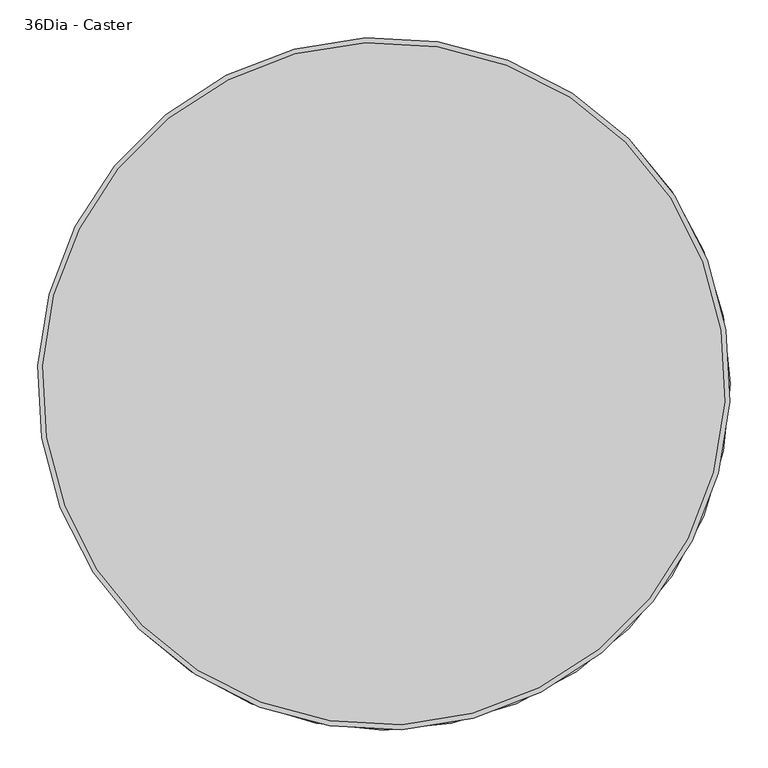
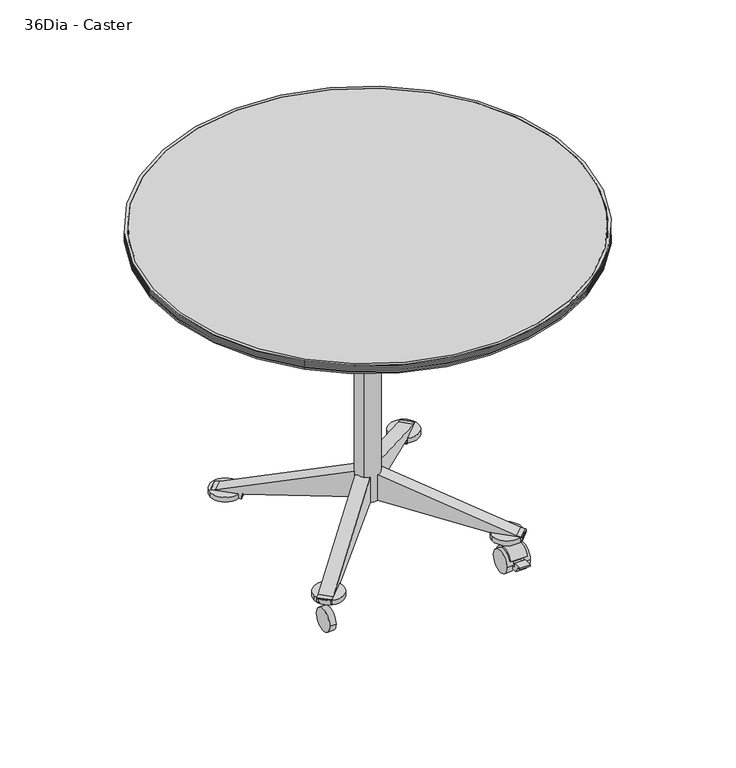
"""IFC4 building model written with IfcOpenShell, lengths in millimetres: furniture geometry, Coalesse_AM_Table_Conference_Ballet_Table_Round : 36Dia - Caster."""

from ifc_helpers import new_model, si_unit, point, frame, frame_2d, origin, origin_2d, place, context, project, spatial, polyline, circle_curve, trimmed, segment, composite_curve, outline, extrude, source, transform, mapped, element, save
from ifc_brep_helpers import plane_surface, cylinder_surface, revolved_surface, advanced_brep


def furniture_36dia_caster_071b1864(model_context):
    return source(origin(), model_context, "Body", "SolidModel", [
        extrude(outline(composite_curve([segment(trimmed(circle_curve(frame_2d((-208.7663144, 24.9907393)), 24.9398531), [point((-233.7061675, 24.9907393))], [point((-183.8264612, 24.9907393))], False, "CARTESIAN"), True, "CONTINUOUS"), segment(trimmed(circle_curve(frame_2d((-208.7663144, 24.9907393)), 24.9398531), [point((-183.8264612, 24.9907393))], [point((-233.7061675, 24.9907393))], False, "CARTESIAN"), True, "CONTINUOUS")], self_intersect=False)), frame((-217.0426362, 0.0, 0.0), z_axis=(1.0, 0.0, 0.0), x_axis=(0.0, 1.0, 0.0)), (0.0, 0.0, 1.0), 13.7103424),
        advanced_brep(
        [(210.1271218, -182.4395783, 14.7931869), (210.1271218, -182.4395783, 35.8956886), (210.1271218, -197.8152878, 51.3082762), (210.1271218, -234.6796249, 36.8601197), (210.1271218, -231.2540436, 35.7749086), (210.1271218, -185.3508649, 16.4051117), (174.0984431, -182.4395783, 14.7931869), (174.0984431, -185.3508649, 16.4051117), (174.0984431, -231.2540436, 35.7749086), (174.0984431, -234.6796249, 36.8601197), (174.0984431, -197.8152878, 51.3082762), (174.0984431, -182.4395783, 35.8956886), (201.6603984, -197.8152878, 51.3082762), (179.2633359, -197.8152878, 51.3082762), (179.2633359, -182.4395783, 35.8956886), (201.6603984, -182.4395783, 35.8956886), (179.2633359, -231.2540436, 35.7749086), (179.2633359, -219.8001714, 32.1463658), (201.6603984, -219.8001714, 32.1463658), (201.6603984, -231.2540436, 35.7749086), (201.6603984, -185.3508649, 16.4051117), (201.6603984, -195.904393, 22.2484025), (179.2633359, -195.904393, 22.2484025), (179.2633359, -185.3508649, 16.4051117), (201.6603984, -197.8152878, 63.5225277), (201.6603984, -182.4395783, 63.5225277), (201.6603984, -222.0637731, 25.0010719), (201.6603984, -241.3530844, 25.0010719), (201.6603984, -241.3530844, 35.1210973), (201.6603984, -260.4030844, 35.1210973), (201.6603984, -260.4030844, 31.7691038), (201.6603984, -253.6776476, 31.7691038), (201.6603984, -244.706152, 17.4117096), (201.6603984, -218.9375545, 17.4117096), (201.6603984, -198.9802659, 16.6930892), (179.2633359, -197.8152878, 63.5225277), (179.2633359, -182.4395783, 63.5225277), (179.2633359, -198.9802659, 16.6930892), (179.2633359, -218.9375545, 17.4117096), (179.2633359, -244.706152, 17.4117096), (179.2633359, -253.6776476, 31.7691038), (179.2633359, -260.4030844, 31.7691038), (179.2633359, -260.4030844, 35.1210973), (179.2633359, -241.3530844, 35.1210973), (179.2633359, -241.3530844, 25.0010719), (179.2633359, -222.0637731, 25.0010719)],
        [
            (0, 1, circle_curve(frame((210.1271218, -209.2741105, 25.3444377), z_axis=(1.0, 0.0, 0.0), x_axis=(0.0, 1.0, 0.0)), 28.8343721)),
            (1, 2, circle_curve(frame((210.1271218, -207.8788336, 25.8930561), z_axis=(1.0, 0.0, 0.0), x_axis=(0.0, 1.0, 0.0)), 27.3351124)),
            (2, 3, circle_curve(frame((210.1271218, -209.4353674, 26.7032164), z_axis=(1.0, 0.0, 0.0), x_axis=(0.0, 1.0, 0.0)), 27.2109394)),
            (3, 4),
            (4, 5, circle_curve(frame((210.1271218, -208.7663144, 24.9907393), z_axis=(-1.0, 0.0, 0.0), x_axis=(0.0, 1.0, 0.0)), 24.9398531)),
            (5, 0),
            (6, 7),
            (7, 8, circle_curve(frame((174.0984431, -208.7663144, 24.9907393), z_axis=(1.0, 0.0, 0.0), x_axis=(0.0, 1.0, 0.0)), 24.9398531)),
            (8, 9),
            (9, 10, circle_curve(frame((174.0984431, -209.4353674, 26.7032164), z_axis=(-1.0, 0.0, 0.0), x_axis=(0.0, 1.0, 0.0)), 27.2109394)),
            (10, 11, circle_curve(frame((174.0984431, -207.8788336, 25.8930561), z_axis=(-1.0, 0.0, 0.0), x_axis=(0.0, 1.0, 0.0)), 27.3351124)),
            (11, 6, circle_curve(frame((174.0984431, -209.2741105, 25.3444377), z_axis=(-1.0, 0.0, 0.0), x_axis=(0.0, 1.0, 0.0)), 28.8343721)),
            (9, 3),
            (2, 12),
            (12, 13),
            (13, 10),
            (0, 6),
            (11, 14),
            (14, 15),
            (15, 1),
            (8, 16),
            (16, 17),
            (17, 18),
            (18, 19),
            (19, 4),
            (5, 20),
            (20, 21),
            (21, 22),
            (22, 23),
            (23, 7),
            (15, 12, circle_curve(frame((201.6603984, -207.8788336, 25.8930561), z_axis=(1.0, 0.0, 0.0), x_axis=(0.0, 1.0, 0.0)), 27.3351124)),
            (13, 14, circle_curve(frame((179.2633359, -207.8788336, 25.8930561), z_axis=(-1.0, 0.0, 0.0), x_axis=(0.0, 1.0, 0.0)), 27.3351124)),
            (19, 20, circle_curve(frame((201.6603984, -208.7663144, 24.9907393), z_axis=(-1.0, 0.0, 0.0), x_axis=(0.0, 1.0, 0.0)), 24.9398531)),
            (23, 16, circle_curve(frame((179.2633359, -208.7663144, 24.9907393), z_axis=(1.0, 0.0, 0.0), x_axis=(0.0, 1.0, 0.0)), 24.9398531)),
            (24, 12),
            (15, 25),
            (25, 24),
            (18, 26),
            (26, 27),
            (27, 28),
            (28, 29),
            (29, 30),
            (30, 31),
            (31, 32),
            (32, 33),
            (33, 34, circle_curve(frame((201.6603984, -208.672695, 25.0010719), z_axis=(1.0, 0.0, 0.0), x_axis=(0.0, 1.0, 0.0)), 12.7658043)),
            (34, 21),
            (35, 36),
            (36, 14),
            (13, 35),
            (22, 37),
            (37, 38, circle_curve(frame((179.2633359, -208.672695, 25.0010719), z_axis=(-1.0, 0.0, 0.0), x_axis=(0.0, 1.0, 0.0)), 12.7658043)),
            (38, 39),
            (39, 40),
            (40, 41),
            (41, 42),
            (42, 43),
            (43, 44),
            (44, 45),
            (45, 17),
            (24, 35),
            (36, 25),
            (45, 26),
            (33, 38),
            (37, 34),
            (44, 27),
            (43, 28),
            (42, 29),
            (41, 30),
            (40, 31),
            (39, 32),
        ],
        [
            plane_surface(frame((210.1271218, -180.4397384, 25.3444377), z_axis=(1.0, 0.0, 0.0), x_axis=(0.0, 0.0, 1.0))),
            plane_surface(frame((174.0984431, -180.4397384, 25.3444377), z_axis=(-1.0, 0.0, 0.0), x_axis=(0.0, 0.0, -1.0))),
            cylinder_surface(frame((174.0984431, -209.4353674, 26.7032164), z_axis=(1.0, 0.0, 0.0), x_axis=(0.0, 1.0, 0.0)), 27.2109394),
            cylinder_surface(frame((174.0984431, -209.2741105, 25.3444377), z_axis=(1.0, 0.0, 0.0), x_axis=(0.0, 1.0, 0.0)), 28.8343721),
            plane_surface(frame((210.1271218, -234.6796249, 36.8601197), z_axis=(0.0, -0.30200390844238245, -0.9533066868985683), x_axis=(-1.0, 0.0, 0.0))),
            plane_surface(frame((210.1271218, -185.3508649, 16.4051117), z_axis=(0.0, -0.4843894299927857, -0.8748524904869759), x_axis=(-1.0, 0.0, 0.0))),
            cylinder_surface(frame((174.0984431, -207.8788336, 25.8930561), z_axis=(1.0, 0.0, 0.0), x_axis=(0.0, 1.0, 0.0)), 27.3351124),
            revolved_surface(polyline([(201.6603984, -183.8264613, 24.9907393), (210.1271218, -183.8264613, 24.9907393)]), (174.0984431, -208.7663144, 24.9907393), (-1.0, 0.0, 0.0)),
            revolved_surface(polyline([(174.0984431, -183.8264613, 24.9907393), (179.2633359, -183.8264613, 24.9907393)]), (174.0984431, -208.7663144, 24.9907393), (-1.0, 0.0, 0.0)),
            plane_surface(frame((201.6603984, -197.8152878, 63.5225277), z_axis=(1.0, 0.0, 0.0), x_axis=(0.0, 0.0, -1.0))),
            plane_surface(frame((179.2633359, -197.8152878, 63.5225277), z_axis=(-1.0, 0.0, 0.0), x_axis=(0.0, 0.0, 1.0))),
            plane_surface(frame((201.6603984, -197.8152878, 63.5225277), z_axis=(0.0, -1.0, 0.0), x_axis=(-1.0, 0.0, 0.0))),
            plane_surface(frame((201.6603984, -182.4395783, 35.8956886), z_axis=(0.0, 1.0, 0.0), x_axis=(-1.0, 0.0, 0.0))),
            plane_surface(frame((201.6603984, -182.4395783, 63.5225277), z_axis=(0.0, 0.0, 1.0), x_axis=(-1.0, 0.0, 0.0))),
            plane_surface(frame((201.6603984, -219.8001714, 32.1463658), z_axis=(0.0, -0.9533066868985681, 0.3020039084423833), x_axis=(-1.0, 0.0, 0.0))),
            cylinder_surface(frame((179.2633359, -208.672695, 25.0010719), z_axis=(1.0, 0.0, 0.0), x_axis=(0.0, 1.0, 0.0)), 12.7658043),
            plane_surface(frame((201.6603984, -198.9802659, 16.6930892), z_axis=(0.0, 0.8748524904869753, -0.48438942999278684), x_axis=(-1.0, 0.0, 0.0))),
            plane_surface(frame((201.6603984, -222.0637731, 25.0010719), z_axis=(0.0, 0.0, 1.0), x_axis=(-1.0, 0.0, 0.0))),
            plane_surface(frame((201.6603984, -241.3530844, 25.0010719), z_axis=(0.0, 1.0, 0.0), x_axis=(-1.0, 0.0, 0.0))),
            plane_surface(frame((201.6603984, -241.3530844, 35.1210973), z_axis=(0.0, 0.0, 1.0), x_axis=(-1.0, 0.0, 0.0))),
            plane_surface(frame((201.6603984, -260.4030844, 35.1210973), z_axis=(0.0, -1.0, 0.0), x_axis=(-1.0, 0.0, 0.0))),
            plane_surface(frame((201.6603984, -260.4030844, 31.7691038), z_axis=(0.0, 0.0, -1.0), x_axis=(-1.0, 0.0, 0.0))),
            plane_surface(frame((201.6603984, -253.6776476, 31.7691038), z_axis=(0.0, -0.8480480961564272, -0.529919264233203), x_axis=(-1.0, 0.0, 0.0))),
            plane_surface(frame((201.6603984, -244.706152, 17.4117096), z_axis=(0.0, 0.0, -1.0), x_axis=(-1.0, 0.0, 0.0))),
        ],
        [
            (0, [[1, 2, 3, 4, 5, 6]]),
            (1, [[7, 8, 9, 10, 11, 12]]),
            (2, [[13, -3, 14, 15, 16, -10]]),
            (3, [[-1, 17, -12, 18, 19, 20]]),
            (4, [[-4, -13, -9, 21, 22, 23, 24, 25]]),
            (5, [[-6, 26, 27, 28, 29, 30, -7, -17]]),
            (6, [[-2, -20, 31, -14]]),
            (6, [[-11, -16, 32, -18]]),
            (7, [[-5, -25, 33, -26]]),
            (8, [[-8, -30, 34, -21]]),
            (9, [[35, -31, 36, 37]]),
            (9, [[38, 39, 40, 41, 42, 43, 44, 45, 46, 47, -27, -33, -24]]),
            (10, [[48, 49, -32, 50]]),
            (10, [[51, 52, 53, 54, 55, 56, 57, 58, 59, 60, -22, -34, -29]]),
            (11, [[-35, 61, -50, -15]]),
            (12, [[-36, -19, -49, 62]]),
            (13, [[-37, -62, -48, -61]]),
            (14, [[-38, -23, -60, 63]]),
            (15, [[-46, 64, -52, 65]]),
            (16, [[-47, -65, -51, -28]]),
            (17, [[-39, -63, -59, 66]]),
            (18, [[-40, -66, -58, 67]]),
            (19, [[-41, -67, -57, 68]]),
            (20, [[-42, -68, -56, 69]]),
            (21, [[-43, -69, -55, 70]]),
            (22, [[-44, -70, -54, 71]]),
            (23, [[-45, -71, -53, -64]]),
        ],
    ),
        extrude(outline(composite_curve([segment(trimmed(circle_curve(frame_2d((-208.7663144, 24.9907393)), 24.9398531), [point((-233.7061675, 24.9907393))], [point((-183.8264612, 24.9907393))], False, "CARTESIAN"), True, "CONTINUOUS"), segment(trimmed(circle_curve(frame_2d((-208.7663144, 24.9907393)), 24.9398531), [point((-183.8264612, 24.9907393))], [point((-233.7061675, 24.9907393))], False, "CARTESIAN"), True, "CONTINUOUS")], self_intersect=False)), frame((166.2968952, 0.0, 0.0), z_axis=(1.0, 0.0, 0.0), x_axis=(0.0, 1.0, 0.0)), (0.0, 0.0, 1.0), 14.6120158),
        extrude(outline(composite_curve([segment(trimmed(circle_curve(frame_2d((-208.7663144, 24.9907393)), 24.9398531), [point((-233.7061675, 24.9907393))], [point((-183.8264612, 24.9907393))], False, "CARTESIAN"), True, "CONTINUOUS"), segment(trimmed(circle_curve(frame_2d((-208.7663144, 24.9907393)), 24.9398531), [point((-183.8264612, 24.9907393))], [point((-233.7061675, 24.9907393))], False, "CARTESIAN"), True, "CONTINUOUS")], self_intersect=False)), frame((203.3322938, 0.0, 0.0), z_axis=(1.0, 0.0, 0.0), x_axis=(0.0, 1.0, 0.0)), (0.0, 0.0, 1.0), 13.7103424),
        extrude(outline(composite_curve([segment(trimmed(circle_curve(frame_2d((-194.715793, 197.3207687)), 31.75), [point((-226.465793, 197.3207687))], [point((-162.965793, 197.3207687))], False, "CARTESIAN"), True, "CONTINUOUS"), segment(trimmed(circle_curve(frame_2d((-194.715793, 197.3207687)), 31.75), [point((-162.965793, 197.3207687))], [point((-226.465793, 197.3207687))], False, "CARTESIAN"), True, "CONTINUOUS")], self_intersect=False)), frame((0.0, 0.0, 62.0397209), z_axis=(0.0, 0.0, 1.0), x_axis=(1.0, 0.0, 0.0)), (0.0, 0.0, 1.0), 10.7840801),
        extrude(outline(composite_curve([segment(trimmed(circle_curve(frame_2d((191.7194605, 196.5270187)), 31.75), [point((159.9694605, 196.5270187))], [point((223.4694605, 196.5270187))], False, "CARTESIAN"), True, "CONTINUOUS"), segment(trimmed(circle_curve(frame_2d((191.7194605, 196.5270187)), 31.75), [point((223.4694605, 196.5270187))], [point((159.9694605, 196.5270187))], False, "CARTESIAN"), True, "CONTINUOUS")], self_intersect=False)), frame((0.0, 0.0, 62.0397209), z_axis=(0.0, 0.0, 1.0), x_axis=(1.0, 0.0, 0.0)), (0.0, 0.0, 1.0), 10.7840801),
        extrude(outline(composite_curve([segment(trimmed(circle_curve(frame_2d((-194.715793, -191.2787692)), 31.75), [point((-226.465793, -191.2787692))], [point((-162.965793, -191.2787692))], False, "CARTESIAN"), True, "CONTINUOUS"), segment(trimmed(circle_curve(frame_2d((-194.715793, -191.2787692)), 31.75), [point((-162.965793, -191.2787692))], [point((-226.465793, -191.2787692))], False, "CARTESIAN"), True, "CONTINUOUS")], self_intersect=False)), frame((0.0, 0.0, 62.0397209), z_axis=(0.0, 0.0, 1.0), x_axis=(1.0, 0.0, 0.0)), (0.0, 0.0, 1.0), 10.7840801),
        extrude(outline(composite_curve([segment(trimmed(circle_curve(frame_2d((191.7194605, -190.4850192)), 31.75), [point((159.9694605, -190.4850192))], [point((223.4694605, -190.4850192))], False, "CARTESIAN"), True, "CONTINUOUS"), segment(trimmed(circle_curve(frame_2d((191.7194605, -190.4850192)), 31.75), [point((223.4694605, -190.4850192))], [point((159.9694605, -190.4850192))], False, "CARTESIAN"), True, "CONTINUOUS")], self_intersect=False)), frame((0.0, 0.0, 62.0397209), z_axis=(0.0, 0.0, 1.0), x_axis=(1.0, 0.0, 0.0)), (0.0, 0.0, 1.0), 10.7840801),
        extrude(outline(composite_curve([segment(polyline([(-57.749273, 0.0), (0.0, 0.0), (-90.9931074, -269.8641919), (-92.3030079, -279.1846177)]), True, "CONTINUOUS"), segment(trimmed(circle_curve(frame_2d((-93.9206951, -278.9572666)), 1.6335852), [point((-92.3030079, -279.1846177))], [point((-93.8206014, -280.5877823))], False, "CARTESIAN"), True, "CONTINUOUS"), segment(trimmed(circle_curve(frame_2d((-95.8523928, -247.4901147)), 33.1599725), [point((-93.8206014, -280.5877823))], [point((-101.682402, -280.1335639))], False, "CARTESIAN"), True, "CONTINUOUS"), segment(trimmed(circle_curve(frame_2d((-101.2796868, -277.8786768)), 2.2905666), [point((-101.682402, -280.1335639))], [point((-103.5674671, -277.7657306))], False, "CARTESIAN"), True, "CONTINUOUS"), segment(polyline([(-103.5674671, -277.7657306), (-103.5674671, -222.4322812)]), True, "CONTINUOUS"), segment(trimmed(circle_curve(frame_2d((-100.6154331, -221.9840334)), 2.9858719), [point((-103.5674671, -222.4322812))], [point((-100.2998684, -219.0148838))], False, "CARTESIAN"), True, "CONTINUOUS"), segment(trimmed(circle_curve(frame_2d((-98.3053249, -200.2482144)), 18.872363), [point((-100.2998684, -219.0148838))], [point((-94.5016021, -218.7332835))], True, "CARTESIAN"), True, "CONTINUOUS"), segment(trimmed(circle_curve(frame_2d((-95.1495986, -215.5841949)), 3.2150673), [point((-94.5016021, -218.7332835))], [point((-91.9741141, -216.0871422))], True, "CARTESIAN"), True, "CONTINUOUS"), segment(polyline([(-91.9741141, -216.0871422), (-57.749273, 0.0)]), True, "CONTINUOUS")], self_intersect=False)), frame((-23.5273141, 7.7834997, 165.607188), z_axis=(0.7071067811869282, 0.707106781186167, 0.0), x_axis=(0.0, 0.0, 1.0)), (0.0, 0.0, 1.0), 29.2174476),
        extrude(outline(composite_curve([segment(polyline([(-57.749273, 44.2801775), (-91.9741141, 260.3673198)]), True, "CONTINUOUS"), segment(trimmed(circle_curve(frame_2d((-95.1495986, 259.8643724)), 3.2150673), [point((-91.9741141, 260.3673198))], [point((-94.5016021, 263.013461))], True, "CARTESIAN"), True, "CONTINUOUS"), segment(trimmed(circle_curve(frame_2d((-98.3053249, 244.5283919)), 18.872363), [point((-94.5016021, 263.013461))], [point((-100.2998684, 263.2950613))], True, "CARTESIAN"), True, "CONTINUOUS"), segment(trimmed(circle_curve(frame_2d((-100.6154331, 266.2642109)), 2.9858719), [point((-100.2998684, 263.2950613))], [point((-103.5674671, 266.7124587))], False, "CARTESIAN"), True, "CONTINUOUS"), segment(polyline([(-103.5674671, 266.7124587), (-103.5674671, 322.0459081)]), True, "CONTINUOUS"), segment(trimmed(circle_curve(frame_2d((-101.2796868, 322.1588543)), 2.2905666), [point((-103.5674671, 322.0459081))], [point((-101.682402, 324.4137415))], False, "CARTESIAN"), True, "CONTINUOUS"), segment(trimmed(circle_curve(frame_2d((-95.8523928, 291.7702923)), 33.1599725), [point((-101.682402, 324.4137415))], [point((-93.8206014, 324.8679598))], False, "CARTESIAN"), True, "CONTINUOUS"), segment(trimmed(circle_curve(frame_2d((-93.9206951, 323.2374442)), 1.6335852), [point((-93.8206014, 324.8679598))], [point((-92.3030079, 323.4647953))], False, "CARTESIAN"), True, "CONTINUOUS"), segment(polyline([(-92.3030079, 323.4647953), (-90.9931074, 314.1443694), (0.0, 44.2801775), (-57.749273, 44.2801775)]), True, "CONTINUOUS")], self_intersect=False)), frame((-23.5273141, 7.7834997, 165.607188), z_axis=(0.7071067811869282, 0.707106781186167, 0.0), x_axis=(0.0, 0.0, 1.0)), (0.0, 0.0, 1.0), 29.2174476),
        extrude(outline(composite_curve([segment(polyline([(-57.749273, 0.0), (0.0, 0.0), (-90.9931074, -269.8641919), (-92.3030079, -279.1846177)]), True, "CONTINUOUS"), segment(trimmed(circle_curve(frame_2d((-93.9206951, -278.9572666)), 1.6335852), [point((-92.3030079, -279.1846177))], [point((-93.8206014, -280.5877823))], False, "CARTESIAN"), True, "CONTINUOUS"), segment(trimmed(circle_curve(frame_2d((-95.8523928, -247.4901147)), 33.1599725), [point((-93.8206014, -280.5877823))], [point((-101.682402, -280.1335639))], False, "CARTESIAN"), True, "CONTINUOUS"), segment(trimmed(circle_curve(frame_2d((-101.2796868, -277.8786768)), 2.2905666), [point((-101.682402, -280.1335639))], [point((-103.5674671, -277.7657306))], False, "CARTESIAN"), True, "CONTINUOUS"), segment(polyline([(-103.5674671, -277.7657306), (-103.5674671, -222.4322812)]), True, "CONTINUOUS"), segment(trimmed(circle_curve(frame_2d((-100.6154331, -221.9840334)), 2.9858719), [point((-103.5674671, -222.4322812))], [point((-100.2998684, -219.0148838))], False, "CARTESIAN"), True, "CONTINUOUS"), segment(trimmed(circle_curve(frame_2d((-98.3053249, -200.2482144)), 18.872363), [point((-100.2998684, -219.0148838))], [point((-94.5016021, -218.7332835))], True, "CARTESIAN"), True, "CONTINUOUS"), segment(trimmed(circle_curve(frame_2d((-95.1495986, -215.5841949)), 3.2150673), [point((-94.5016021, -218.7332835))], [point((-91.9741141, -216.0871422))], True, "CARTESIAN"), True, "CONTINUOUS"), segment(polyline([(-91.9741141, -216.0871422), (-57.749273, 0.0)]), True, "CONTINUOUS")], self_intersect=False)), frame((-7.7834997, -23.5273141, 165.607188), z_axis=(-0.7071067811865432, 0.7071067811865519, 0.0), x_axis=(0.0, 0.0, 1.0)), (0.0, 0.0, 1.0), 29.2174476),
        extrude(outline(composite_curve([segment(polyline([(-57.749273, 44.2801775), (-91.9741141, 260.3673198)]), True, "CONTINUOUS"), segment(trimmed(circle_curve(frame_2d((-95.1495986, 259.8643724)), 3.2150673), [point((-91.9741141, 260.3673198))], [point((-94.5016021, 263.013461))], True, "CARTESIAN"), True, "CONTINUOUS"), segment(trimmed(circle_curve(frame_2d((-98.3053249, 244.5283919)), 18.872363), [point((-94.5016021, 263.013461))], [point((-100.2998684, 263.2950613))], True, "CARTESIAN"), True, "CONTINUOUS"), segment(trimmed(circle_curve(frame_2d((-100.6154331, 266.2642109)), 2.9858719), [point((-100.2998684, 263.2950613))], [point((-103.5674671, 266.7124587))], False, "CARTESIAN"), True, "CONTINUOUS"), segment(polyline([(-103.5674671, 266.7124587), (-103.5674671, 322.0459081)]), True, "CONTINUOUS"), segment(trimmed(circle_curve(frame_2d((-101.2796868, 322.1588543)), 2.2905666), [point((-103.5674671, 322.0459081))], [point((-101.682402, 324.4137415))], False, "CARTESIAN"), True, "CONTINUOUS"), segment(trimmed(circle_curve(frame_2d((-95.8523928, 291.7702923)), 33.1599725), [point((-101.682402, 324.4137415))], [point((-93.8206014, 324.8679598))], False, "CARTESIAN"), True, "CONTINUOUS"), segment(trimmed(circle_curve(frame_2d((-93.9206951, 323.2374442)), 1.6335852), [point((-93.8206014, 324.8679598))], [point((-92.3030079, 323.4647953))], False, "CARTESIAN"), True, "CONTINUOUS"), segment(polyline([(-92.3030079, 323.4647953), (-90.9931074, 314.1443694), (0.0, 44.2801775), (-57.749273, 44.2801775)]), True, "CONTINUOUS")], self_intersect=False)), frame((-7.7834997, -23.5273141, 165.607188), z_axis=(-0.7071067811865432, 0.7071067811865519, 0.0), x_axis=(0.0, 0.0, 1.0)), (0.0, 0.0, 1.0), 29.2174476),
        extrude(outline(composite_curve([segment(trimmed(circle_curve(frame_2d((1.04e-05, -1.04e-05)), 25.3999999), [point((-17.9605018, -17.9605225))], [point((17.9605225, 17.9605018))], False, "CARTESIAN"), True, "CONTINUOUS"), segment(trimmed(circle_curve(frame_2d((1.04e-05, -1.04e-05)), 25.3999999), [point((17.9605225, 17.9605018))], [point((-17.9605018, -17.9605225))], False, "CARTESIAN"), True, "CONTINUOUS")], self_intersect=False)), frame((0.0, 0.0, 107.857915), z_axis=(0.0, 0.0, 1.0), x_axis=(1.0, 0.0, 0.0)), (0.0, 0.0, 1.0), 499.8204968),
        advanced_brep(
        [(-318.7990923, -318.7990923, 723.9), (318.7990923, 318.7990923, 723.9), (318.7990923, 318.7990923, 704.85), (-318.7990923, -318.7990923, 704.85), (-323.4194013, -323.4194013, 720.7467693), (323.4194013, 323.4194013, 720.7467693), (323.4194013, 323.4194013, 723.9), (-323.4194013, -323.4194013, 723.9), (-321.1902454, -321.1902454, 719.140489), (321.1902454, 321.1902454, 719.140489), (-323.3975457, -323.3975457, 717.5499574), (323.3975457, 323.3975457, 717.5499574), (-321.1872768, -321.1872768, 715.9572867), (321.1872768, 321.1872768, 715.9572867), (-323.4153307, -323.4153307, 714.3518005), (323.4153307, 323.4153307, 714.3518005), (-321.1853731, -321.1853731, 712.8136693), (321.1853731, 321.1853731, 712.8136693), (-323.4314025, -323.4314025, 711.2246637), (323.4314025, 323.4314025, 711.2246637), (-321.1899902, -321.1899902, 709.6095518), (321.1899902, 321.1899902, 709.6095518), (-323.4314025, -323.4314025, 708.0238127), (323.4314025, 323.4314025, 708.0238127), (-323.4314025, -323.4314025, 704.85), (323.4314025, 323.4314025, 704.85)],
        [
            (0, 1, circle_curve(frame((0.0, 0.0, 723.9), z_axis=(0.0, 0.0, 1.0), x_axis=(0.707106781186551, 0.707106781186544, 0.0)), 450.85)),
            (1, 2),
            (2, 3, circle_curve(frame((0.0, 0.0, 704.85), z_axis=(0.0, 0.0, -1.0), x_axis=(0.707106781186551, 0.707106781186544, 0.0)), 450.85)),
            (3, 0),
            (4, 5, circle_curve(frame((0.0, 0.0, 720.7467693), z_axis=(0.0, 0.0, 1.0), x_axis=(0.707106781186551, 0.707106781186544, 0.0)), 457.3841036)),
            (5, 6),
            (6, 7, circle_curve(frame((0.0, 0.0, 723.9), z_axis=(0.0, 0.0, -1.0), x_axis=(0.707106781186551, 0.707106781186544, 0.0)), 457.3841036)),
            (7, 4),
            (8, 9, circle_curve(frame((0.0, 0.0, 719.140489), z_axis=(0.0, 0.0, 1.0), x_axis=(0.707106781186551, 0.707106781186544, 0.0)), 454.2316012)),
            (9, 5),
            (4, 8),
            (10, 11, circle_curve(frame((0.0, 0.0, 717.5499574), z_axis=(0.0, 0.0, 1.0), x_axis=(0.707106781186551, 0.707106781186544, 0.0)), 457.3531952)),
            (11, 9),
            (8, 10),
            (12, 13, circle_curve(frame((0.0, 0.0, 715.9572867), z_axis=(0.0, 0.0, 1.0), x_axis=(0.707106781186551, 0.707106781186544, 0.0)), 454.2274029)),
            (13, 11),
            (10, 12),
            (14, 15, circle_curve(frame((0.0, 0.0, 714.3518005), z_axis=(0.0, 0.0, 1.0), x_axis=(0.707106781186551, 0.707106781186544, 0.0)), 457.378347)),
            (15, 13),
            (12, 14),
            (16, 17, circle_curve(frame((0.0, 0.0, 712.8136693), z_axis=(0.0, 0.0, 1.0), x_axis=(0.707106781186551, 0.707106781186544, 0.0)), 454.2247106)),
            (17, 15),
            (14, 16),
            (18, 19, circle_curve(frame((0.0, 0.0, 711.2246637), z_axis=(0.0, 0.0, 1.0), x_axis=(0.707106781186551, 0.707106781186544, 0.0)), 457.4010759)),
            (19, 17),
            (16, 18),
            (20, 21, circle_curve(frame((0.0, 0.0, 709.6095518), z_axis=(0.0, 0.0, 1.0), x_axis=(0.707106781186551, 0.707106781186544, 0.0)), 454.2312403)),
            (21, 19),
            (18, 20),
            (22, 23, circle_curve(frame((0.0, 0.0, 708.0238127), z_axis=(0.0, 0.0, 1.0), x_axis=(0.707106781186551, 0.707106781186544, 0.0)), 457.4010759)),
            (23, 21),
            (20, 22),
            (24, 25, circle_curve(frame((0.0, 0.0, 704.85), z_axis=(0.0, 0.0, 1.0), x_axis=(0.707106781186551, 0.707106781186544, 0.0)), 457.4010759)),
            (25, 23),
            (22, 24),
            (1, 0, circle_curve(frame((0.0, 0.0, 723.9), z_axis=(0.0, 0.0, 1.0), x_axis=(-0.7071067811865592, -0.7071067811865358, 0.0)), 450.85)),
            (3, 2, circle_curve(frame((0.0, 0.0, 704.85), z_axis=(0.0, 0.0, -1.0), x_axis=(-0.7071067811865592, -0.7071067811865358, 0.0)), 450.85)),
            (6, 7, circle_curve(frame((0.0, 0.0, 723.9), z_axis=(0.0, 0.0, 1.0), x_axis=(-0.7071067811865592, -0.7071067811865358, 0.0)), 457.3841036)),
            (5, 4, circle_curve(frame((0.0, 0.0, 720.7467693), z_axis=(0.0, 0.0, 1.0), x_axis=(-0.7071067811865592, -0.7071067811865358, 0.0)), 457.3841036)),
            (9, 8, circle_curve(frame((0.0, 0.0, 719.140489), z_axis=(0.0, 0.0, 1.0), x_axis=(-0.7071067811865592, -0.7071067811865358, 0.0)), 454.2316012)),
            (11, 10, circle_curve(frame((0.0, 0.0, 717.5499574), z_axis=(0.0, 0.0, 1.0), x_axis=(-0.7071067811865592, -0.7071067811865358, 0.0)), 457.3531952)),
            (13, 12, circle_curve(frame((0.0, 0.0, 715.9572867), z_axis=(0.0, 0.0, 1.0), x_axis=(-0.7071067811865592, -0.7071067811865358, 0.0)), 454.2274029)),
            (15, 14, circle_curve(frame((0.0, 0.0, 714.3518005), z_axis=(0.0, 0.0, 1.0), x_axis=(-0.7071067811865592, -0.7071067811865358, 0.0)), 457.378347)),
            (17, 16, circle_curve(frame((0.0, 0.0, 712.8136693), z_axis=(0.0, 0.0, 1.0), x_axis=(-0.7071067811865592, -0.7071067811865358, 0.0)), 454.2247106)),
            (19, 18, circle_curve(frame((0.0, 0.0, 711.2246637), z_axis=(0.0, 0.0, 1.0), x_axis=(-0.7071067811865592, -0.7071067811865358, 0.0)), 457.4010759)),
            (21, 20, circle_curve(frame((0.0, 0.0, 709.6095518), z_axis=(0.0, 0.0, 1.0), x_axis=(-0.7071067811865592, -0.7071067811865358, 0.0)), 454.2312403)),
            (23, 22, circle_curve(frame((0.0, 0.0, 708.0238127), z_axis=(0.0, 0.0, 1.0), x_axis=(-0.7071067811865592, -0.7071067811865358, 0.0)), 457.4010759)),
            (25, 24, circle_curve(frame((0.0, 0.0, 704.85), z_axis=(0.0, 0.0, 1.0), x_axis=(-0.7071067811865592, -0.7071067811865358, 0.0)), 457.4010759)),
        ],
        [
            revolved_surface(polyline([(318.7990922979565, 318.7990922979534, 704.85), (318.7990922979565, 318.7990922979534, 723.9)]), (0.0, 0.0, 723.9), (0.0, 0.0, -1.0)),
            cylinder_surface(frame((0.0, 0.0, 723.9), z_axis=(0.0, 0.0, -1.0), x_axis=(0.707106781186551, 0.707106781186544, 0.0)), 457.3841036),
            revolved_surface(polyline([(323.4194013, 323.4194013, 720.7467693), (321.1902454, 321.1902454, 719.140489)]), (0.0, 0.0, 723.9), (0.0, 0.0, -1.0)),
            revolved_surface(polyline([(321.1902454, 321.1902454, 719.140489), (323.3975457, 323.3975457, 717.5499574)]), (0.0, 0.0, 723.9), (0.0, 0.0, -1.0)),
            revolved_surface(polyline([(323.3975457, 323.3975457, 717.5499574), (321.1872768, 321.1872768, 715.9572867)]), (0.0, 0.0, 723.9), (0.0, 0.0, -1.0)),
            revolved_surface(polyline([(321.1872768, 321.1872768, 715.9572867), (323.4153307, 323.4153307, 714.3518005)]), (0.0, 0.0, 723.9), (0.0, 0.0, -1.0)),
            revolved_surface(polyline([(323.4153307, 323.4153307, 714.3518005), (321.1853731, 321.1853731, 712.8136693)]), (0.0, 0.0, 723.9), (0.0, 0.0, -1.0)),
            revolved_surface(polyline([(321.1853731, 321.1853731, 712.8136693), (323.4314025, 323.4314025, 711.2246637)]), (0.0, 0.0, 723.9), (0.0, 0.0, -1.0)),
            revolved_surface(polyline([(323.4314025, 323.4314025, 711.2246637), (321.1899902, 321.1899902, 709.6095518)]), (0.0, 0.0, 723.9), (0.0, 0.0, -1.0)),
            revolved_surface(polyline([(321.1899902, 321.1899902, 709.6095518), (323.4314025, 323.4314025, 708.0238127)]), (0.0, 0.0, 723.9), (0.0, 0.0, -1.0)),
            cylinder_surface(frame((0.0, 0.0, 723.9), z_axis=(0.0, 0.0, -1.0), x_axis=(0.707106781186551, 0.707106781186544, 0.0)), 457.4010759),
            revolved_surface(polyline([(-318.79909229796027, -318.7990922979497, 704.85), (-318.79909229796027, -318.7990922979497, 723.9)]), (0.0, 0.0, 723.9), (0.0, 0.0, -1.0)),
            plane_surface(frame((0.0, 0.0, 723.9), z_axis=(0.0, 0.0, 1.0), x_axis=(-0.7071067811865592, -0.7071067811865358, 0.0))),
            cylinder_surface(frame((0.0, 0.0, 723.9), z_axis=(0.0, 0.0, -1.0), x_axis=(-0.7071067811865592, -0.7071067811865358, 0.0)), 457.3841036),
            revolved_surface(polyline([(-323.4194013, -323.4194013, 720.7467693), (-321.1902454, -321.1902454, 719.140489)]), (0.0, 0.0, 723.9), (0.0, 0.0, -1.0)),
            revolved_surface(polyline([(-321.1902454, -321.1902454, 719.140489), (-323.3975457, -323.3975457, 717.5499574)]), (0.0, 0.0, 723.9), (0.0, 0.0, -1.0)),
            revolved_surface(polyline([(-323.3975457, -323.3975457, 717.5499574), (-321.1872768, -321.1872768, 715.9572867)]), (0.0, 0.0, 723.9), (0.0, 0.0, -1.0)),
            revolved_surface(polyline([(-321.1872768, -321.1872768, 715.9572867), (-323.4153307, -323.4153307, 714.3518005)]), (0.0, 0.0, 723.9), (0.0, 0.0, -1.0)),
            revolved_surface(polyline([(-323.4153307, -323.4153307, 714.3518005), (-321.1853731, -321.1853731, 712.8136693)]), (0.0, 0.0, 723.9), (0.0, 0.0, -1.0)),
            revolved_surface(polyline([(-321.1853731, -321.1853731, 712.8136693), (-323.4314025, -323.4314025, 711.2246637)]), (0.0, 0.0, 723.9), (0.0, 0.0, -1.0)),
            revolved_surface(polyline([(-323.4314025, -323.4314025, 711.2246637), (-321.1899902, -321.1899902, 709.6095518)]), (0.0, 0.0, 723.9), (0.0, 0.0, -1.0)),
            revolved_surface(polyline([(-321.1899902, -321.1899902, 709.6095518), (-323.4314025, -323.4314025, 708.0238127)]), (0.0, 0.0, 723.9), (0.0, 0.0, -1.0)),
            cylinder_surface(frame((0.0, 0.0, 723.9), z_axis=(0.0, 0.0, -1.0), x_axis=(-0.7071067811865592, -0.7071067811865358, 0.0)), 457.4010759),
            plane_surface(frame((0.0, 0.0, 704.85), z_axis=(0.0, 0.0, -1.0), x_axis=(-0.7071067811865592, -0.7071067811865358, 0.0))),
        ],
        [
            (0, [[1, 2, 3, 4]]),
            (1, [[5, 6, 7, 8]]),
            (2, [[9, 10, -5, 11]]),
            (3, [[12, 13, -9, 14]]),
            (4, [[15, 16, -12, 17]]),
            (5, [[18, 19, -15, 20]]),
            (6, [[21, 22, -18, 23]]),
            (7, [[24, 25, -21, 26]]),
            (8, [[27, 28, -24, 29]]),
            (9, [[30, 31, -27, 32]]),
            (10, [[33, 34, -30, 35]]),
            (11, [[36, -4, 37, -2]]),
            (12, [[38, -7], [-36, -1]]),
            (13, [[39, -8, -38, -6]]),
            (14, [[40, -11, -39, -10]]),
            (15, [[41, -14, -40, -13]]),
            (16, [[42, -17, -41, -16]]),
            (17, [[43, -20, -42, -19]]),
            (18, [[44, -23, -43, -22]]),
            (19, [[45, -26, -44, -25]]),
            (20, [[46, -29, -45, -28]]),
            (21, [[47, -32, -46, -31]]),
            (22, [[48, -35, -47, -34]]),
            (23, [[-48, -33], [-37, -3]]),
        ],
    ),
        extrude(outline(composite_curve([segment(trimmed(circle_curve(origin_2d(), 450.85), [point((-318.7990923, -318.7990923))], [point((318.7990923, 318.7990923))], False, "CARTESIAN"), True, "CONTINUOUS"), segment(trimmed(circle_curve(origin_2d(), 450.85), [point((318.7990923, 318.7990923))], [point((-318.7990923, -318.7990923))], False, "CARTESIAN"), True, "CONTINUOUS")], self_intersect=False)), frame((0.0, 0.0, 704.85), z_axis=(0.0, 0.0, 1.0), x_axis=(1.0, 0.0, 0.0)), (0.0, 0.0, 1.0), 19.05),
    ])


if __name__ == "__main__":
    model = new_model("IFC4")
    model_context = context("Model", 3, world=origin())
    ifc_project = project(units=[si_unit("LENGTHUNIT", "METRE", prefix="MILLI")], contexts=[model_context])
    site = spatial("IfcSite", under=ifc_project)
    building = spatial("IfcBuilding", under=site)
    placement = place(None, origin())
    furniture_36dia_caster_shape = furniture_36dia_caster_071b1864(model_context)
    element("IfcFurniture", 1, ObjectType="Coalesse_AM_Table_Conference_Ballet_Table_Round : 36Dia - Caster", at=placement, inside=building, context=model_context, shape_type="MappedRepresentation", body=[
        mapped(furniture_36dia_caster_shape, transform((0.0, 0.0, 0.0), x_axis=(1.0, 0.0, 0.0), y_axis=(0.0, 1.0, 0.0), z_axis=(0.0, 0.0, 1.0))),
    ])
    save(model, "model.ifc")
